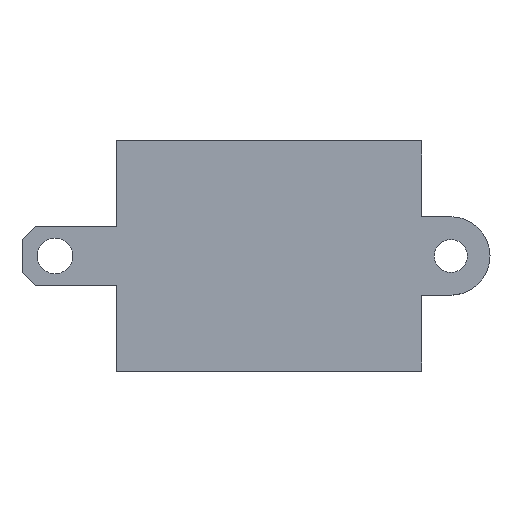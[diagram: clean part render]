
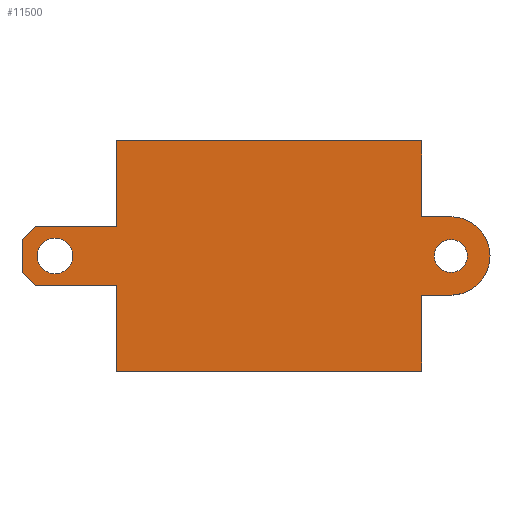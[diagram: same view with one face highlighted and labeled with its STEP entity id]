
A CAD part, top view. The second image highlights one B-rep face of the part: STEP entity #11500.
In plain terms, the highlighted planar face has unit normal (0, 0, 1).
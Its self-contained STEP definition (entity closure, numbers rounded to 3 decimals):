
#391=LINE('',#16652,#1707);
#493=LINE('',#17172,#1809);
#551=LINE('',#17359,#1867);
#588=LINE('',#17679,#1904);
#604=LINE('',#17725,#1920);
#605=LINE('',#17731,#1921);
#606=LINE('',#17733,#1922);
#607=LINE('',#17735,#1923);
#608=LINE('',#17737,#1924);
#609=LINE('',#17739,#1925);
#610=LINE('',#17740,#1926);
#611=LINE('',#17742,#1927);
#612=LINE('',#17746,#1928);
#1707=VECTOR('',#13339,1000.);
#1809=VECTOR('',#13601,1000.);
#1867=VECTOR('',#13741,1000.);
#1904=VECTOR('',#13922,1000.);
#1920=VECTOR('',#13958,1000.);
#1921=VECTOR('',#13965,1000.);
#1922=VECTOR('',#13966,1000.);
#1923=VECTOR('',#13967,1000.);
#1924=VECTOR('',#13968,1000.);
#1925=VECTOR('',#13969,1000.);
#1926=VECTOR('',#13970,1000.);
#1927=VECTOR('',#13971,1000.);
#1928=VECTOR('',#13974,1000.);
#3577=ORIENTED_EDGE('',*,*,#6950,.T.);
#3578=ORIENTED_EDGE('',*,*,#6951,.T.);
#3579=ORIENTED_EDGE('',*,*,#6952,.T.);
#3580=ORIENTED_EDGE('',*,*,#6953,.T.);
#3581=ORIENTED_EDGE('',*,*,#6954,.T.);
#3582=ORIENTED_EDGE('',*,*,#6955,.T.);
#3583=ORIENTED_EDGE('',*,*,#6956,.T.);
#3584=ORIENTED_EDGE('',*,*,#6949,.F.);
#3585=ORIENTED_EDGE('',*,*,#6716,.T.);
#3586=ORIENTED_EDGE('',*,*,#6957,.T.);
#3587=ORIENTED_EDGE('',*,*,#6958,.T.);
#3588=ORIENTED_EDGE('',*,*,#6959,.T.);
#3589=ORIENTED_EDGE('',*,*,#6960,.T.);
#3590=ORIENTED_EDGE('',*,*,#6512,.T.);
#3591=ORIENTED_EDGE('',*,*,#6809,.F.);
#3592=ORIENTED_EDGE('',*,*,#6923,.F.);
#6512=EDGE_CURVE('',#8243,#8245,#391,.T.);
#6716=EDGE_CURVE('',#8430,#8429,#493,.T.);
#6809=EDGE_CURVE('',#8513,#8245,#551,.T.);
#6923=EDGE_CURVE('',#8584,#8513,#588,.T.);
#6949=EDGE_CURVE('',#8430,#8582,#604,.T.);
#6950=EDGE_CURVE('',#8605,#8605,#9457,.F.);
#6951=EDGE_CURVE('',#8606,#8606,#9458,.F.);
#6952=EDGE_CURVE('',#8584,#8607,#605,.T.);
#6953=EDGE_CURVE('',#8607,#8608,#606,.F.);
#6954=EDGE_CURVE('',#8608,#8609,#607,.T.);
#6955=EDGE_CURVE('',#8609,#8610,#608,.F.);
#6956=EDGE_CURVE('',#8610,#8582,#609,.T.);
#6957=EDGE_CURVE('',#8429,#8611,#610,.T.);
#6958=EDGE_CURVE('',#8611,#8612,#611,.T.);
#6959=EDGE_CURVE('',#8612,#8613,#9459,.T.);
#6960=EDGE_CURVE('',#8613,#8243,#612,.T.);
#8243=VERTEX_POINT('',#16647);
#8245=VERTEX_POINT('',#16651);
#8429=VERTEX_POINT('',#17171);
#8430=VERTEX_POINT('',#17173);
#8513=VERTEX_POINT('',#17358);
#8582=VERTEX_POINT('',#17674);
#8584=VERTEX_POINT('',#17678);
#8605=VERTEX_POINT('',#17728);
#8606=VERTEX_POINT('',#17730);
#8607=VERTEX_POINT('',#17732);
#8608=VERTEX_POINT('',#17734);
#8609=VERTEX_POINT('',#17736);
#8610=VERTEX_POINT('',#17738);
#8611=VERTEX_POINT('',#17741);
#8612=VERTEX_POINT('',#17743);
#8613=VERTEX_POINT('',#17745);
#9457=CIRCLE('',#12501,2.15);
#9458=CIRCLE('',#12502,2.);
#9459=CIRCLE('',#12503,4.75);
#9693=EDGE_LOOP('',(#3577));
#9694=EDGE_LOOP('',(#3578));
#9695=EDGE_LOOP('',(#3579,#3580,#3581,#3582,#3583,#3584,#3585,#3586,#3587,
#3588,#3589,#3590,#3591,#3592));
#10365=FACE_BOUND('',#9693,.T.);
#10366=FACE_BOUND('',#9694,.T.);
#10367=FACE_BOUND('',#9695,.T.);
#11006=PLANE('',#12500);
#11500=ADVANCED_FACE('',(#10365,#10366,#10367),#11006,.T.);
#12500=AXIS2_PLACEMENT_3D('',#17726,#13959,#13960);
#12501=AXIS2_PLACEMENT_3D('',#17727,#13961,#13962);
#12502=AXIS2_PLACEMENT_3D('',#17729,#13963,#13964);
#12503=AXIS2_PLACEMENT_3D('',#17744,#13972,#13973);
#13339=DIRECTION('',(0.,1.,0.));
#13601=DIRECTION('',(1.,0.,0.));
#13741=DIRECTION('',(1.,0.,0.));
#13922=DIRECTION('',(0.,1.,0.));
#13958=DIRECTION('',(0.,1.,0.));
#13959=DIRECTION('',(0.,0.,1.));
#13960=DIRECTION('',(1.,0.,0.));
#13961=DIRECTION('',(0.,0.,1.));
#13962=DIRECTION('',(1.,0.,0.));
#13963=DIRECTION('',(0.,0.,1.));
#13964=DIRECTION('',(1.,0.,0.));
#13965=DIRECTION('',(-1.,0.,0.));
#13966=DIRECTION('',(0.707,0.707,0.));
#13967=DIRECTION('',(0.,-1.,0.));
#13968=DIRECTION('',(-0.707,0.707,0.));
#13969=DIRECTION('',(1.,0.,0.));
#13970=DIRECTION('',(0.,1.,0.));
#13971=DIRECTION('',(1.,0.,0.));
#13972=DIRECTION('',(0.,0.,1.));
#13973=DIRECTION('',(-1.,0.,0.));
#13974=DIRECTION('',(-1.,0.,0.));
#16647=CARTESIAN_POINT('',(19.453,4.749,0.));
#16651=CARTESIAN_POINT('',(19.453,13.95,0.));
#16652=CARTESIAN_POINT('',(19.453,-13.95,0.));
#17171=CARTESIAN_POINT('',(19.453,-13.95,0.));
#17172=CARTESIAN_POINT('',(19.453,-13.95,0.));
#17173=CARTESIAN_POINT('',(-17.5,-13.95,0.));
#17358=CARTESIAN_POINT('',(-17.5,13.95,0.));
#17359=CARTESIAN_POINT('',(19.453,13.95,0.));
#17674=CARTESIAN_POINT('',(-17.5,-3.6,0.));
#17678=CARTESIAN_POINT('',(-17.5,3.6,0.));
#17679=CARTESIAN_POINT('',(-17.5,-13.95,0.));
#17725=CARTESIAN_POINT('',(-17.5,-13.95,0.));
#17726=CARTESIAN_POINT('',(19.453,-13.95,0.));
#17727=CARTESIAN_POINT('',(-25.,0.,0.));
#17728=CARTESIAN_POINT('',(-22.85,0.,0.));
#17729=CARTESIAN_POINT('',(22.953,-0.001,0.));
#17730=CARTESIAN_POINT('',(24.953,-0.001,0.));
#17731=CARTESIAN_POINT('',(-17.5,3.6,0.));
#17732=CARTESIAN_POINT('',(-27.4,3.6,0.));
#17733=CARTESIAN_POINT('',(-12.749,18.251,0.));
#17734=CARTESIAN_POINT('',(-29.,2.,0.));
#17735=CARTESIAN_POINT('',(-29.,3.6,0.));
#17736=CARTESIAN_POINT('',(-29.,-2.,0.));
#17737=CARTESIAN_POINT('',(1.201,-32.201,0.));
#17738=CARTESIAN_POINT('',(-27.4,-3.6,0.));
#17739=CARTESIAN_POINT('',(-29.,-3.6,0.));
#17740=CARTESIAN_POINT('',(19.453,-13.95,0.));
#17741=CARTESIAN_POINT('',(19.453,-4.751,0.));
#17742=CARTESIAN_POINT('',(22.953,-4.751,0.));
#17743=CARTESIAN_POINT('',(22.953,-4.751,0.));
#17744=CARTESIAN_POINT('',(22.953,-0.001,0.));
#17745=CARTESIAN_POINT('',(22.953,4.749,0.));
#17746=CARTESIAN_POINT('',(22.953,4.749,0.));
